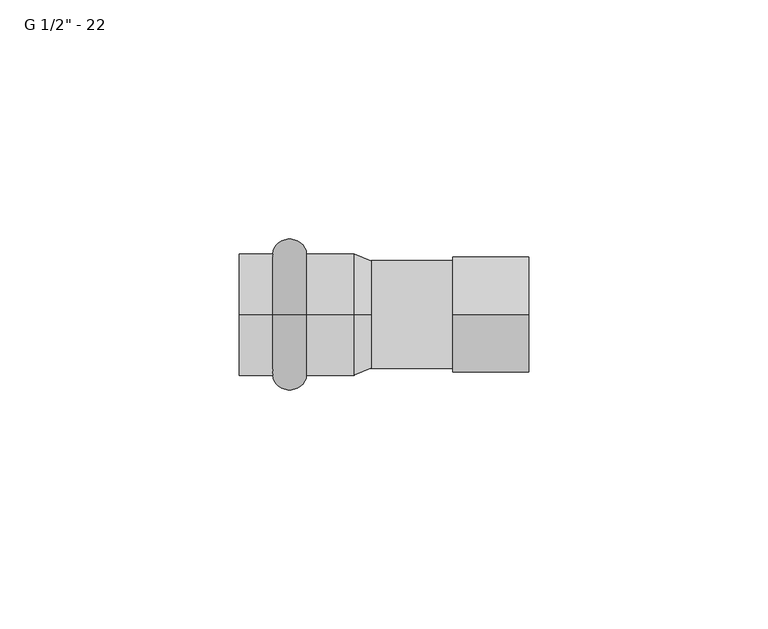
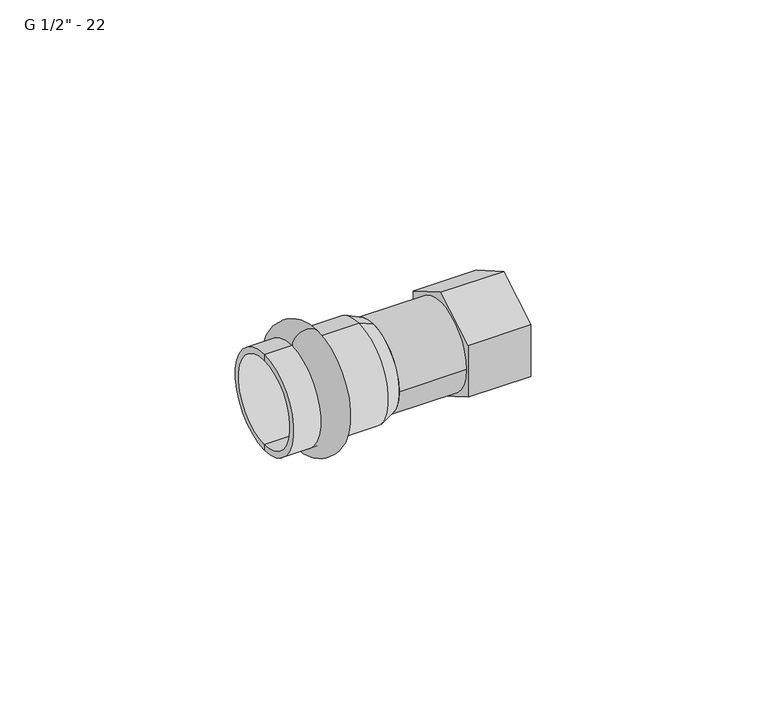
"""IFC4 building model written with IfcOpenShell, lengths in millimetres: pipe fitting geometry."""

from ifc_helpers import new_model, si_unit, point, frame, origin, origin_2d, place, context, project, spatial, polyline, circle_curve, ellipse_curve, trimmed, segment, composite_curve, outline, extrude, source, transform, mapped, element, save
from ifc_brep_helpers import plane_surface, cylinder_surface, revolved_surface, advanced_brep


def pipe_fitting_684a95cb(model_context):
    return source(origin(), model_context, "Body", "SolidModel", [
        advanced_brep(
        [(-17.0, 0.0, 12.75), (-17.0, 0.0, -12.75), (-10.0, 0.0, -12.75), (-10.0, 0.0, 12.75)],
        [
            (0, 1, circle_curve(frame((-17.0, 0.0, 0.0), z_axis=(-1.0, 0.0, 0.0), x_axis=(0.0, 0.0, -1.0)), 12.75)),
            (1, 2),
            (2, 3, circle_curve(frame((-10.0, 0.0, 0.0), z_axis=(1.0, 0.0, 0.0), x_axis=(0.0, 0.0, -1.0)), 12.75)),
            (3, 0),
            (1, 0, circle_curve(frame((-17.0, 0.0, 0.0), z_axis=(-1.0, 0.0, 0.0), x_axis=(0.0, 0.0, -1.0)), 12.75)),
            (3, 2, circle_curve(frame((-10.0, 0.0, 0.0), z_axis=(1.0, 0.0, 0.0), x_axis=(0.0, 0.0, -1.0)), 12.75)),
            (2, 1, ellipse_curve(frame((-13.5, 0.0, -12.75), z_axis=(0.0, 1.0, 0.0), x_axis=(-1.0, 0.0, 0.0)), 3.5, 3.1)),
            (0, 3, ellipse_curve(frame((-13.5, 0.0, 12.75), z_axis=(0.0, 1.0, 0.0), x_axis=(-1.0, 0.0, 0.0)), 3.5, 3.1)),
        ],
        [
            revolved_surface(polyline([(-10.0, 0.0, -12.75), (-17.0, 0.0, -12.75)]), (3.0, 0.0, 0.0), (1.0, 0.0, 0.0)),
            revolved_surface(trimmed(ellipse_curve(frame((-13.5, 0.0, -12.75), z_axis=(0.0, -1.0, 0.0), x_axis=(-1.0, 0.0, 0.0)), 3.5, 3.1), [point((-17.0, 0.0, -12.75))], [point((-10.0, 0.0, -12.75))], True, "CARTESIAN"), (3.0, 0.0, 0.0), (1.0, 0.0, 0.0)),
        ],
        [
            (0, [[1, 2, 3, 4]]),
            (0, [[5, -4, 6, -2]]),
            (1, [[-3, 7, -1, 8]]),
            (1, [[-6, -8, -5, -7]]),
        ],
    ),
        advanced_brep(
        [(3.5337785, 0.0, 11.25), (3.5337785, 0.0, -11.25), (0.0, 0.0, -12.75), (0.0, 0.0, 12.75), (-24.0, 0.0, 11.25), (-24.0, 0.0, -11.25), (-24.0, 0.0, 12.75), (-24.0, 0.0, -12.75)],
        [
            (0, 1, circle_curve(frame((3.5337785, 0.0, 0.0), z_axis=(-1.0, 0.0, 0.0), x_axis=(0.0, 0.0, -1.0)), 11.25)),
            (1, 2),
            (2, 3, circle_curve(frame((0.0, 0.0, 0.0), z_axis=(1.0, 0.0, 0.0), x_axis=(0.0, 0.0, -1.0)), 12.75)),
            (3, 0),
            (1, 0, circle_curve(frame((3.5337785, 0.0, 0.0), z_axis=(-1.0, 0.0, 0.0), x_axis=(0.0, 0.0, -1.0)), 11.25)),
            (3, 2, circle_curve(frame((0.0, 0.0, 0.0), z_axis=(1.0, 0.0, 0.0), x_axis=(0.0, 0.0, -1.0)), 12.75)),
            (4, 5, circle_curve(frame((-24.0, 0.0, 0.0), z_axis=(-1.0, 0.0, 0.0), x_axis=(0.0, 0.0, -1.0)), 11.25)),
            (5, 1),
            (0, 4),
            (5, 4, circle_curve(frame((-24.0, 0.0, 0.0), z_axis=(-1.0, 0.0, 0.0), x_axis=(0.0, 0.0, -1.0)), 11.25)),
            (6, 7, circle_curve(frame((-24.0, 0.0, 0.0), z_axis=(-1.0, 0.0, 0.0), x_axis=(0.0, 0.0, -1.0)), 12.75)),
            (7, 5),
            (4, 6),
            (7, 6, circle_curve(frame((-24.0, 0.0, 0.0), z_axis=(-1.0, 0.0, 0.0), x_axis=(0.0, 0.0, -1.0)), 12.75)),
            (2, 7),
            (6, 3),
        ],
        [
            revolved_surface(polyline([(0.0, 0.0, -12.75), (3.5337785, 0.0, -11.25)]), (3.0, 0.0, 0.0), (1.0, 0.0, 0.0)),
            revolved_surface(polyline([(3.5337785, 0.0, -11.25), (-24.0, 0.0, -11.25)]), (3.0, 0.0, 0.0), (1.0, 0.0, 0.0)),
            plane_surface(frame((-24.0, 0.0, 0.0), z_axis=(-1.0, 0.0, 0.0), x_axis=(0.0, 0.0, -1.0))),
            cylinder_surface(frame((3.0, 0.0, 0.0), z_axis=(1.0, 0.0, 0.0), x_axis=(0.0, 0.0, -1.0)), 12.75),
        ],
        [
            (0, [[1, 2, 3, 4]]),
            (0, [[5, -4, 6, -2]]),
            (1, [[7, 8, -1, 9]]),
            (1, [[10, -9, -5, -8]]),
            (2, [[11, 12, -7, 13]]),
            (2, [[14, -13, -10, -12]]),
            (3, [[-3, 15, -11, 16]]),
            (3, [[-6, -16, -14, -15]]),
        ],
    ),
        extrude(outline(composite_curve([segment(trimmed(circle_curve(origin_2d(), 11.25), [point((-11.25, 0.0))], [point((11.25, 0.0))], False, "CARTESIAN"), True, "CONTINUOUS"), segment(trimmed(circle_curve(origin_2d(), 11.25), [point((11.25, 0.0))], [point((-11.25, 0.0))], False, "CARTESIAN"), True, "CONTINUOUS")], self_intersect=False)), frame((3.5337785, 0.0, 0.0), z_axis=(1.0, 0.0, 0.0), x_axis=(0.0, 1.0, 0.0)), (0.0, 0.0, 1.0), 17.0),
        advanced_brep(
        [(36.4337785, -12.0, -6.9282032), (20.5337785, -12.0, -6.9282032), (20.5337785, 0.0, -13.8564065), (36.4337785, 0.0, -13.8564065), (20.5337785, 12.0, -6.9282032), (36.4337785, 12.0, -6.9282032), (36.4337785, 12.0, 6.9282032), (20.5337785, 12.0, 6.9282032), (20.5337785, 0.0, 13.8564065), (36.4337785, 0.0, 13.8564065), (20.5337785, -12.0, 6.9282032), (36.4337785, -12.0, 6.9282032), (36.4337785, -10.75, 0.0), (36.4337785, 10.75, 0.0), (20.5337785, -2.0, -1.1547005), (20.5337785, 0.0, -2.3094011), (20.5337785, 2.0, -1.1547005), (20.5337785, 2.0, 1.1547005), (20.5337785, 0.0, 2.3094011), (20.5337785, -2.0, 1.1547005), (24.5337785, -10.75, 0.0), (24.5337785, 10.75, 0.0), (24.5337785, 0.0, -2.3094011), (24.5337785, -2.0, -1.1547005), (24.5337785, -2.0, 1.1547005), (24.5337785, 0.0, 2.3094011), (24.5337785, 2.0, 1.1547005), (24.5337785, 2.0, -1.1547005)],
        [
            (0, 1),
            (1, 2),
            (2, 3),
            (3, 0),
            (2, 4),
            (4, 5),
            (5, 3),
            (6, 7),
            (7, 8),
            (8, 9),
            (9, 6),
            (8, 10),
            (10, 11),
            (11, 9),
            (4, 7),
            (6, 5),
            (11, 0),
            (12, 13, circle_curve(frame((36.4337785, 0.0, 0.0), z_axis=(-1.0, 0.0, 0.0), x_axis=(0.0, 1.0, 0.0)), 10.75)),
            (13, 12, circle_curve(frame((36.4337785, 0.0, 0.0), z_axis=(-1.0, 0.0, 0.0), x_axis=(0.0, 1.0, 0.0)), 10.75)),
            (1, 10),
            (14, 15),
            (15, 16),
            (16, 17),
            (17, 18),
            (18, 19),
            (19, 14),
            (20, 21, circle_curve(frame((24.5337785, 0.0, 0.0), z_axis=(1.0, 0.0, 0.0), x_axis=(0.0, 1.0, 0.0)), 10.75)),
            (21, 20, circle_curve(frame((24.5337785, 0.0, 0.0), z_axis=(1.0, 0.0, 0.0), x_axis=(0.0, 1.0, 0.0)), 10.75)),
            (22, 23),
            (23, 24),
            (24, 25),
            (25, 26),
            (26, 27),
            (27, 22),
            (21, 13),
            (12, 20),
            (14, 23),
            (22, 15),
            (27, 16),
            (17, 26),
            (25, 18),
            (24, 19),
        ],
        [
            plane_surface(frame((20.5337785, -12.0, -6.9282032), z_axis=(0.0, -0.5000000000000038, -0.8660254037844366), x_axis=(0.0, 0.8660254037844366, -0.5000000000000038))),
            plane_surface(frame((20.5337785, 0.0, -13.8564065), z_axis=(0.0, 0.49999999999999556, -0.8660254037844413), x_axis=(0.0, 0.8660254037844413, 0.49999999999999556))),
            plane_surface(frame((20.5337785, 12.0, 6.9282032), z_axis=(0.0, 0.500000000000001, 0.8660254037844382), x_axis=(0.0, -0.8660254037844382, 0.500000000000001))),
            plane_surface(frame((20.5337785, 0.0, 13.8564065), z_axis=(0.0, -0.49999999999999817, 0.8660254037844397), x_axis=(0.0, -0.8660254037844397, -0.49999999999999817))),
            plane_surface(frame((20.5337785, 12.0, -6.9282032), z_axis=(0.0, 1.0, 0.0), x_axis=(0.0, 0.0, 1.0))),
            plane_surface(frame((36.4337785, -12.0, 6.9282032), z_axis=(1.0, 0.0, 0.0), x_axis=(0.0, 0.0, -1.0))),
            plane_surface(frame((20.5337785, -2.0, 1.1547005), z_axis=(-1.0, 0.0, 0.0), x_axis=(0.0, 0.0, -1.0))),
            plane_surface(frame((20.5337785, -12.0, 6.9282032), z_axis=(0.0, -1.0, 0.0), x_axis=(0.0, 0.0, -1.0))),
            plane_surface(frame((24.5337785, 10.75, 0.0), z_axis=(1.0, 0.0, 0.0), x_axis=(0.0, 0.0, -1.0))),
            revolved_surface(polyline([(36.4337785, 10.75, 0.0), (24.5337785, 10.75, 0.0)]), (24.5337785, 0.0, 0.0), (1.0, 0.0, 0.0)),
            plane_surface(frame((36.4337785, -2.0, -1.1547005), z_axis=(0.0, 0.5000000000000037, 0.8660254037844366), x_axis=(0.0, 0.8660254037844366, -0.5000000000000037))),
            plane_surface(frame((36.4337785, 0.0, -2.3094011), z_axis=(0.0, -0.49999999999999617, 0.8660254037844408), x_axis=(0.0, 0.8660254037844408, 0.49999999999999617))),
            plane_surface(frame((36.4337785, 2.0, 1.1547005), z_axis=(0.0, -0.5000000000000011, -0.866025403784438), x_axis=(0.0, -0.866025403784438, 0.5000000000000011))),
            plane_surface(frame((36.4337785, 0.0, 2.3094011), z_axis=(0.0, 0.4999999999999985, -0.8660254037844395), x_axis=(0.0, -0.8660254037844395, -0.4999999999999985))),
            plane_surface(frame((36.4337785, 2.0, -1.1547005), z_axis=(0.0, -1.0, 0.0), x_axis=(0.0, 0.0, 1.0))),
            plane_surface(frame((36.4337785, -2.0, 1.1547005), z_axis=(0.0, 1.0, 0.0), x_axis=(0.0, 0.0, -1.0))),
        ],
        [
            (0, [[1, 2, 3, 4]]),
            (1, [[-3, 5, 6, 7]]),
            (2, [[8, 9, 10, 11]]),
            (3, [[-10, 12, 13, 14]]),
            (4, [[-6, 15, -8, 16]]),
            (5, [[-4, -7, -16, -11, -14, 17], [18, 19]]),
            (6, [[-2, 20, -12, -9, -15, -5], [21, 22, 23, 24, 25, 26]]),
            (7, [[-1, -17, -13, -20]]),
            (8, [[27, 28], [29, 30, 31, 32, 33, 34]]),
            (9, [[-28, 35, -18, 36]]),
            (9, [[-27, -36, -19, -35]]),
            (10, [[-21, 37, -29, 38]]),
            (11, [[-22, -38, -34, 39]]),
            (12, [[-24, 40, -32, 41]]),
            (13, [[-25, -41, -31, 42]]),
            (14, [[-23, -39, -33, -40]]),
            (15, [[-26, -42, -30, -37]]),
        ],
    ),
    ])


if __name__ == "__main__":
    model = new_model("IFC4")
    model_context = context("Model", 3, world=origin())
    ifc_project = project(units=[si_unit("LENGTHUNIT", "METRE", prefix="MILLI")], contexts=[model_context])
    site = spatial("IfcSite", under=ifc_project)
    building = spatial("IfcBuilding", under=site)
    placement = place(None, origin())
    pipe_fitting_shape = pipe_fitting_684a95cb(model_context)
    element("IfcPipeFitting", 1, ObjectType="РЕХАУ_Пресс Муфта с накидной гайкой : G 1/2\" - 22", at=placement, inside=building, context=model_context, shape_type="MappedRepresentation", body=[
        mapped(pipe_fitting_shape, transform((0.0, 0.0, 0.0), x_axis=(1.0, 0.0, 0.0), y_axis=(0.0, 1.0, 0.0), z_axis=(0.0, 0.0, 1.0))),
    ])
    save(model, "model.ifc")
